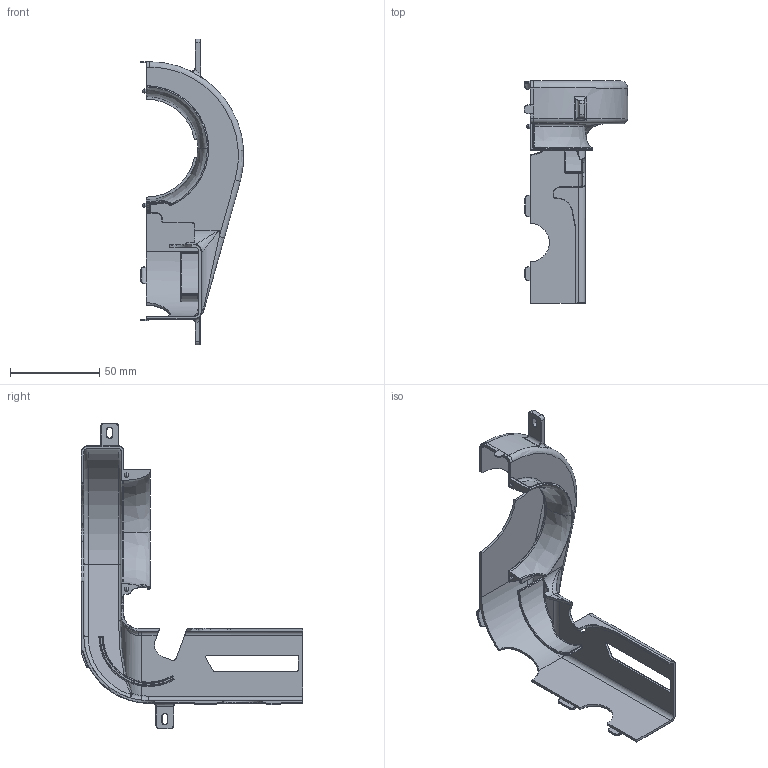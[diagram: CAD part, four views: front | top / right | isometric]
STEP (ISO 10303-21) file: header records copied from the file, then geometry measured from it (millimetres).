
FILE_DESCRIPTION (( 'STEP AP203' ), '1' );
FILE_NAME ('1360133_12_R_SERIE_3D.STEP', '2024-01-07T13:57:12', ( 'Chris' ), ( 'Big Sky CNC' ), 'SwSTEP 2.0', 'SolidWorks 2012', '' );
FILE_SCHEMA (( 'CONFIG_CONTROL_DESIGN' ));
Length unit declared in the file: millimetre
Products named in the file (1): 1360133_12_R_SERIE_3D
Bounding box: 58.04 x 124.5 x 171.56 mm (x, y, z)
Volume: 31251.4 mm3; surface area: 42470.9 mm2
Topology: 1 solids, 1 shells, 436 faces, 1079 edges, 625 vertices
Faces by surface type: cylinder 174, torus 88, plane 83, bspline 71, sphere 19, cone 1
Entity records: 15440 total; most frequent: CARTESIAN_POINT 5582, ORIENTED_EDGE 2104, DIRECTION 2076, EDGE_CURVE 1052, AXIS2_PLACEMENT_3D 846, VERTEX_POINT 620, CIRCLE 480, EDGE_LOOP 444
